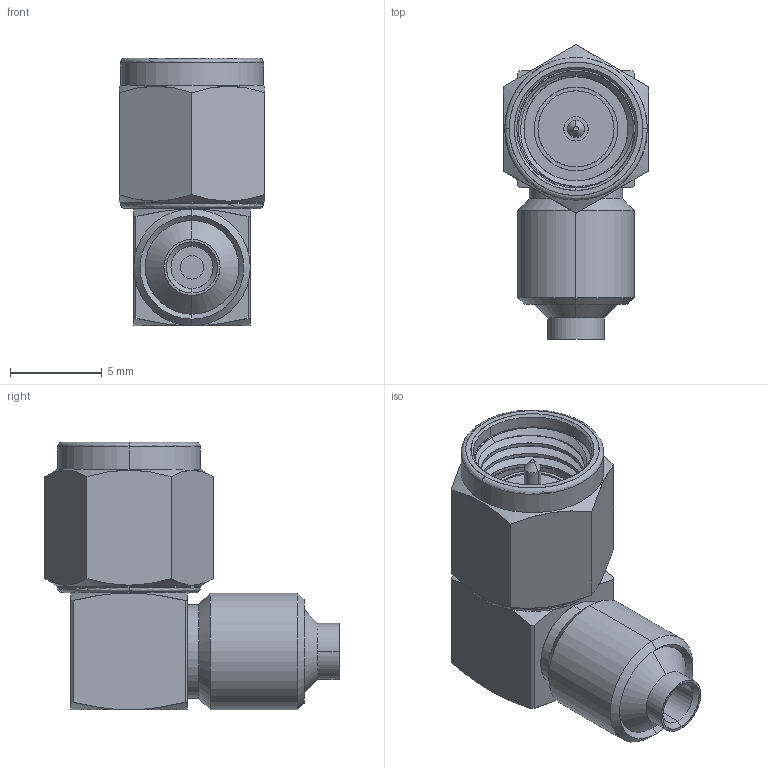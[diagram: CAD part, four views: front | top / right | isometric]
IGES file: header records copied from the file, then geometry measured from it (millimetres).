
Start section: SolidWorks IGES file using analytic representation for surfaces
Global section: file name: E:\Solidworks\Sketches\Shannon\1-SMA\SMA_igs\1305094K003-005.IGS; native system: SolidWorks 2013; preprocessor: SolidWorks 2013; author: sculpepper; date: 150313.160041; units: inch
Bounding box: 7.92 x 16.01 x 14.55 mm (x, y, z)
Surface area: 819.3 mm2 (no closed solid volume)
Topology: 0 solids, 0 shells, 102 faces, 1492 edges, 1492 vertices
Faces by surface type: revolution 67, bspline 35
